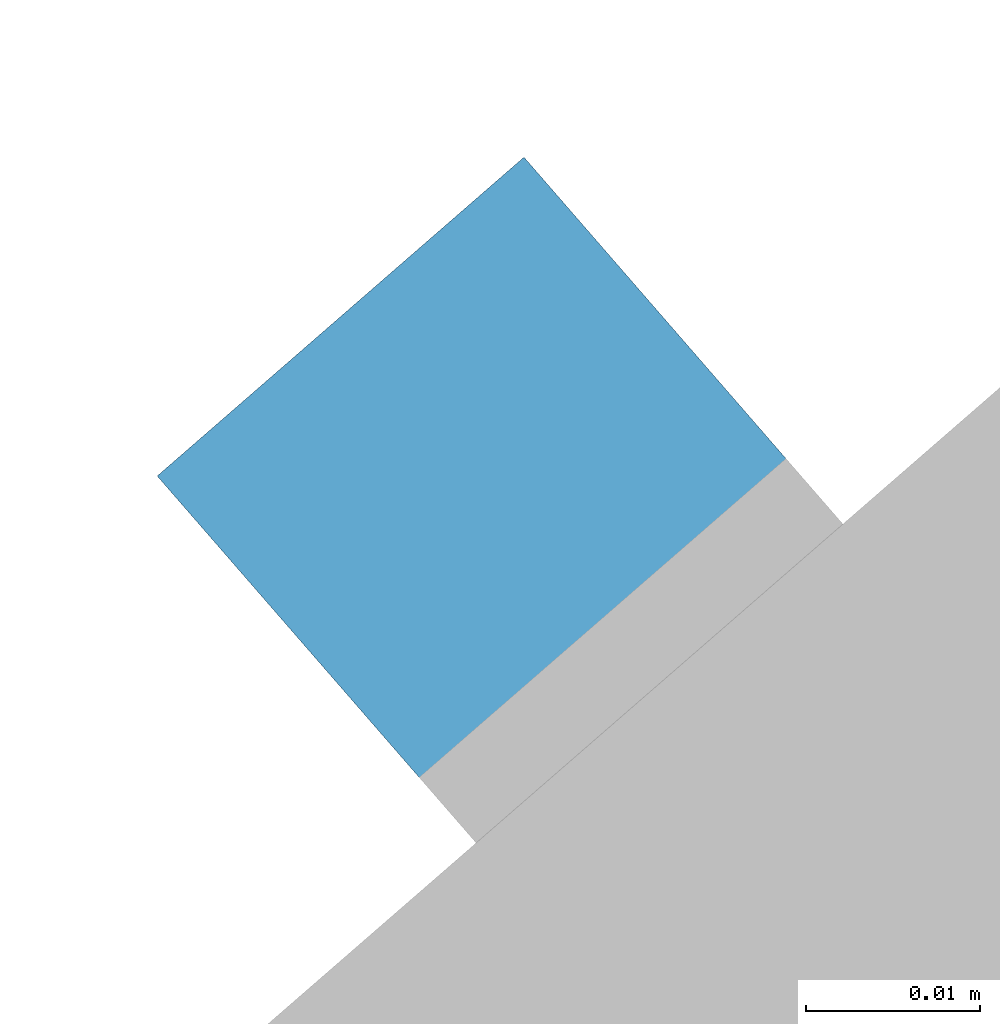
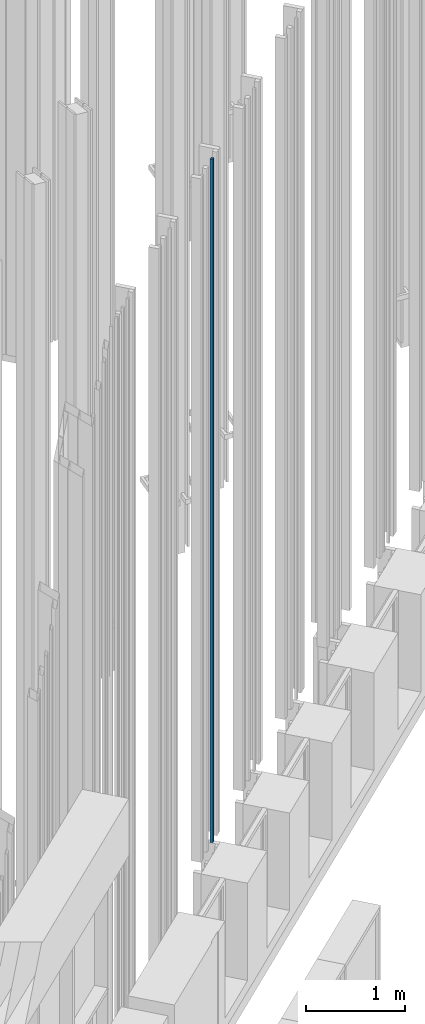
# One storey, part 227 of 390: 1 wall.
"""IFC2X3 building model written with IfcOpenShell, lengths in millimetres."""

from ifc_helpers import new_model, entity, si_unit, converted_unit, derived_unit, money_unit, direction, frame, origin_with_axes, place, context, subcontext, project, spatial, faceted_brep, material, type_object, element, save


model = new_model("IFC2X3")

# Units and contexts
model_context = context("Model", 3, precision=1e-05, world=origin_with_axes(), true_north=direction((0.0, 1.0)))
body_context = subcontext(model_context, "Body", "Model", "MODEL_VIEW")
ifc_project = project(units=[si_unit("LENGTHUNIT", "METRE", prefix="MILLI"), si_unit("AREAUNIT", "SQUARE_METRE"), si_unit("VOLUMEUNIT", "CUBIC_METRE"), converted_unit("PLANEANGLEUNIT", "DEGREE", entity("IfcPlaneAngleMeasure", 0.0174532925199), si_unit("PLANEANGLEUNIT", "RADIAN"), dimensions=[0, 0, 0, 0, 0, 0, 0]), si_unit("SOLIDANGLEUNIT", "STERADIAN"), money_unit("EUR"), converted_unit("TIMEUNIT", "Year", entity("IfcTimeMeasure", 31556926.0), si_unit("TIMEUNIT", "SECOND"), dimensions=[0, 0, 1, 0, 0, 0, 0]), si_unit("MASSUNIT", "GRAM", prefix="KILO"), si_unit("THERMODYNAMICTEMPERATUREUNIT", "DEGREE_CELSIUS"), si_unit("LUMINOUSINTENSITYUNIT", "LUMEN"), si_unit("ENERGYUNIT", "JOULE", prefix="MEGA"), derived_unit("THERMALCONDUCTANCEUNIT", [(si_unit("POWERUNIT", "WATT"), 1), (si_unit("LENGTHUNIT", "METRE"), -1), (si_unit("THERMODYNAMICTEMPERATUREUNIT", "KELVIN"), -1)]), derived_unit("SPECIFICHEATCAPACITYUNIT", [(si_unit("ENERGYUNIT", "JOULE"), 1), (si_unit("MASSUNIT", "GRAM", prefix="KILO"), -1), (si_unit("THERMODYNAMICTEMPERATUREUNIT", "KELVIN"), -1)]), derived_unit("MASSDENSITYUNIT", [(si_unit("MASSUNIT", "GRAM", prefix="KILO"), 1), (si_unit("VOLUMEUNIT", "CUBIC_METRE"), -1)])], contexts=[model_context])

# Site, building, storey
site_placement = place(None, origin_with_axes())
site = spatial("IfcSite", under=ifc_project, at=site_placement, Name="Site", CompositionType="ELEMENT")
building_placement = place(site_placement, origin_with_axes())
building = spatial("IfcBuilding", under=site, at=building_placement, Name="Building", CompositionType="ELEMENT")
storey_placement = place(building_placement, origin_with_axes())
storey = spatial("IfcBuildingStorey", under=building, at=storey_placement, Name="1 korrus", CompositionType="ELEMENT", Elevation=0.0)

# Wall
ifc_material = material(Name="Site specified")
wall_type = type_object("IfcWallType", Name="Puitfassaadi ribistik", PredefinedType="NOTDEFINED")
wall_placement = place(storey_placement, frame((139313.109359, 91124.8790143, 1468.07770651), z_axis=(0.0, 0.0, 1.0), x_axis=(0.754709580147, 0.656059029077, 0.0)))
element("IfcWall", 1, at=wall_placement, inside=storey, type_object=wall_type, material=ifc_material, Name="Site specified", context=body_context, shape_type="Brep", body=[
    faceted_brep([(14.0, 14.0, 8396.92229349), (14.0, 14.0, 0.0), (-14.0, 14.0, 0.0), (-14.0, 14.0, 8396.92229349), (14.0, -14.0, 8396.92229349), (14.0, -14.0, 0.0), (-14.0, -14.0, 0.0), (-14.0, -14.0, 8396.92229349)], [[[0, 1, 2, 3]], [[4, 5, 1, 0]], [[2, 1, 5, 6]], [[3, 2, 6, 7]], [[4, 0, 3, 7]], [[7, 6, 5, 4]]]),
])

save(model, "model.ifc")
